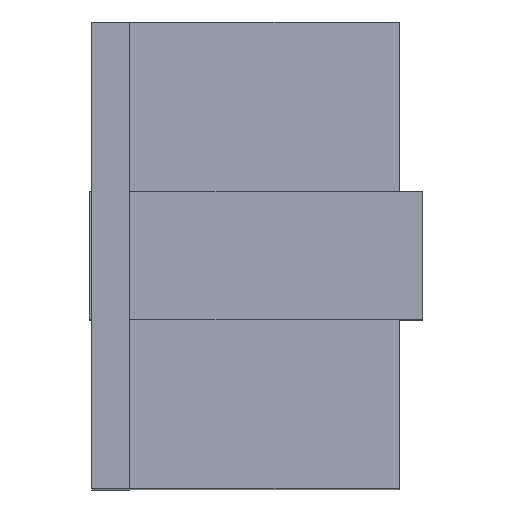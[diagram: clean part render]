
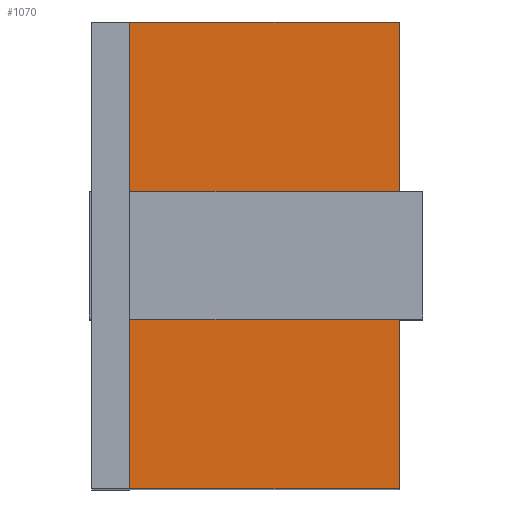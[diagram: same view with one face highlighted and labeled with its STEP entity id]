
A CAD part, top view. The second image highlights one B-rep face of the part: STEP entity #1070.
In plain terms, the highlighted planar face has unit normal (0, 0, 1).
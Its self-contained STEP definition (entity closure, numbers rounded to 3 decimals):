
#32 = PLANE('',#33);
#33 = AXIS2_PLACEMENT_3D('',#34,#35,#36);
#34 = CARTESIAN_POINT('',(33.2,5.5,-5.45));
#35 = DIRECTION('',(0.,1.,0.));
#36 = DIRECTION('',(0.,-0.,1.));
#141 = VERTEX_POINT('',#142);
#142 = CARTESIAN_POINT('',(33.45,5.5,4.85));
#156 = PLANE('',#157);
#157 = AXIS2_PLACEMENT_3D('',#158,#159,#160);
#158 = CARTESIAN_POINT('',(33.45,-5.5,-9.));
#159 = DIRECTION('',(1.,0.,0.));
#160 = DIRECTION('',(0.,0.,1.));
#168 = EDGE_CURVE('',#141,#169,#171,.T.);
#169 = VERTEX_POINT('',#170);
#170 = CARTESIAN_POINT('',(39.8,5.5,4.85));
#171 = SURFACE_CURVE('',#172,(#176,#183),.PCURVE_S1.);
#172 = LINE('',#173,#174);
#173 = CARTESIAN_POINT('',(33.2,5.5,4.85));
#174 = VECTOR('',#175,1.);
#175 = DIRECTION('',(1.,0.,0.));
#176 = PCURVE('',#32,#177);
#177 = DEFINITIONAL_REPRESENTATION('',(#178),#182);
#178 = LINE('',#179,#180);
#179 = CARTESIAN_POINT('',(10.3,0.));
#180 = VECTOR('',#181,1.);
#181 = DIRECTION('',(0.,1.));
#182 = ( GEOMETRIC_REPRESENTATION_CONTEXT(2) 
PARAMETRIC_REPRESENTATION_CONTEXT() REPRESENTATION_CONTEXT('2D SPACE',''
  ) );
#183 = PCURVE('',#184,#189);
#184 = PLANE('',#185);
#185 = AXIS2_PLACEMENT_3D('',#186,#187,#188);
#186 = CARTESIAN_POINT('',(33.2,-5.5,4.85));
#187 = DIRECTION('',(0.,0.,1.));
#188 = DIRECTION('',(1.,0.,-0.));
#189 = DEFINITIONAL_REPRESENTATION('',(#190),#194);
#190 = LINE('',#191,#192);
#191 = CARTESIAN_POINT('',(0.,11.));
#192 = VECTOR('',#193,1.);
#193 = DIRECTION('',(1.,0.));
#194 = ( GEOMETRIC_REPRESENTATION_CONTEXT(2) 
PARAMETRIC_REPRESENTATION_CONTEXT() REPRESENTATION_CONTEXT('2D SPACE',''
  ) );
#212 = PLANE('',#213);
#213 = AXIS2_PLACEMENT_3D('',#214,#215,#216);
#214 = CARTESIAN_POINT('',(39.8,-5.5,-5.45));
#215 = DIRECTION('',(1.,0.,0.));
#216 = DIRECTION('',(0.,0.,1.));
#271 = PLANE('',#272);
#272 = AXIS2_PLACEMENT_3D('',#273,#274,#275);
#273 = CARTESIAN_POINT('',(32.55,-5.5,-9.));
#274 = DIRECTION('',(0.,1.,0.));
#275 = DIRECTION('',(0.,-0.,1.));
#912 = VERTEX_POINT('',#913);
#913 = CARTESIAN_POINT('',(33.45,-5.5,4.85));
#934 = EDGE_CURVE('',#912,#141,#935,.T.);
#935 = SURFACE_CURVE('',#936,(#940,#947),.PCURVE_S1.);
#936 = LINE('',#937,#938);
#937 = CARTESIAN_POINT('',(33.45,-5.5,4.85));
#938 = VECTOR('',#939,1.);
#939 = DIRECTION('',(0.,1.,0.));
#940 = PCURVE('',#156,#941);
#941 = DEFINITIONAL_REPRESENTATION('',(#942),#946);
#942 = LINE('',#943,#944);
#943 = CARTESIAN_POINT('',(13.85,0.));
#944 = VECTOR('',#945,1.);
#945 = DIRECTION('',(0.,-1.));
#946 = ( GEOMETRIC_REPRESENTATION_CONTEXT(2) 
PARAMETRIC_REPRESENTATION_CONTEXT() REPRESENTATION_CONTEXT('2D SPACE',''
  ) );
#947 = PCURVE('',#184,#948);
#948 = DEFINITIONAL_REPRESENTATION('',(#949),#953);
#949 = LINE('',#950,#951);
#950 = CARTESIAN_POINT('',(0.25,0.));
#951 = VECTOR('',#952,1.);
#952 = DIRECTION('',(0.,1.));
#953 = ( GEOMETRIC_REPRESENTATION_CONTEXT(2) 
PARAMETRIC_REPRESENTATION_CONTEXT() REPRESENTATION_CONTEXT('2D SPACE',''
  ) );
#1070 = ADVANCED_FACE('',(#1071),#184,.T.);
#1071 = FACE_BOUND('',#1072,.T.);
#1072 = EDGE_LOOP('',(#1073,#1074,#1075,#1098));
#1073 = ORIENTED_EDGE('',*,*,#168,.F.);
#1074 = ORIENTED_EDGE('',*,*,#934,.F.);
#1075 = ORIENTED_EDGE('',*,*,#1076,.T.);
#1076 = EDGE_CURVE('',#912,#1077,#1079,.T.);
#1077 = VERTEX_POINT('',#1078);
#1078 = CARTESIAN_POINT('',(39.8,-5.5,4.85));
#1079 = SURFACE_CURVE('',#1080,(#1084,#1091),.PCURVE_S1.);
#1080 = LINE('',#1081,#1082);
#1081 = CARTESIAN_POINT('',(33.2,-5.5,4.85));
#1082 = VECTOR('',#1083,1.);
#1083 = DIRECTION('',(1.,0.,0.));
#1084 = PCURVE('',#184,#1085);
#1085 = DEFINITIONAL_REPRESENTATION('',(#1086),#1090);
#1086 = LINE('',#1087,#1088);
#1087 = CARTESIAN_POINT('',(0.,0.));
#1088 = VECTOR('',#1089,1.);
#1089 = DIRECTION('',(1.,0.));
#1090 = ( GEOMETRIC_REPRESENTATION_CONTEXT(2) 
PARAMETRIC_REPRESENTATION_CONTEXT() REPRESENTATION_CONTEXT('2D SPACE',''
  ) );
#1091 = PCURVE('',#271,#1092);
#1092 = DEFINITIONAL_REPRESENTATION('',(#1093),#1097);
#1093 = LINE('',#1094,#1095);
#1094 = CARTESIAN_POINT('',(13.85,0.65));
#1095 = VECTOR('',#1096,1.);
#1096 = DIRECTION('',(0.,1.));
#1097 = ( GEOMETRIC_REPRESENTATION_CONTEXT(2) 
PARAMETRIC_REPRESENTATION_CONTEXT() REPRESENTATION_CONTEXT('2D SPACE',''
  ) );
#1098 = ORIENTED_EDGE('',*,*,#1099,.T.);
#1099 = EDGE_CURVE('',#1077,#169,#1100,.T.);
#1100 = SURFACE_CURVE('',#1101,(#1105,#1112),.PCURVE_S1.);
#1101 = LINE('',#1102,#1103);
#1102 = CARTESIAN_POINT('',(39.8,-5.5,4.85));
#1103 = VECTOR('',#1104,1.);
#1104 = DIRECTION('',(0.,1.,0.));
#1105 = PCURVE('',#184,#1106);
#1106 = DEFINITIONAL_REPRESENTATION('',(#1107),#1111);
#1107 = LINE('',#1108,#1109);
#1108 = CARTESIAN_POINT('',(6.6,0.));
#1109 = VECTOR('',#1110,1.);
#1110 = DIRECTION('',(0.,1.));
#1111 = ( GEOMETRIC_REPRESENTATION_CONTEXT(2) 
PARAMETRIC_REPRESENTATION_CONTEXT() REPRESENTATION_CONTEXT('2D SPACE',''
  ) );
#1112 = PCURVE('',#212,#1113);
#1113 = DEFINITIONAL_REPRESENTATION('',(#1114),#1118);
#1114 = LINE('',#1115,#1116);
#1115 = CARTESIAN_POINT('',(10.3,0.));
#1116 = VECTOR('',#1117,1.);
#1117 = DIRECTION('',(0.,-1.));
#1118 = ( GEOMETRIC_REPRESENTATION_CONTEXT(2) 
PARAMETRIC_REPRESENTATION_CONTEXT() REPRESENTATION_CONTEXT('2D SPACE',''
  ) );
